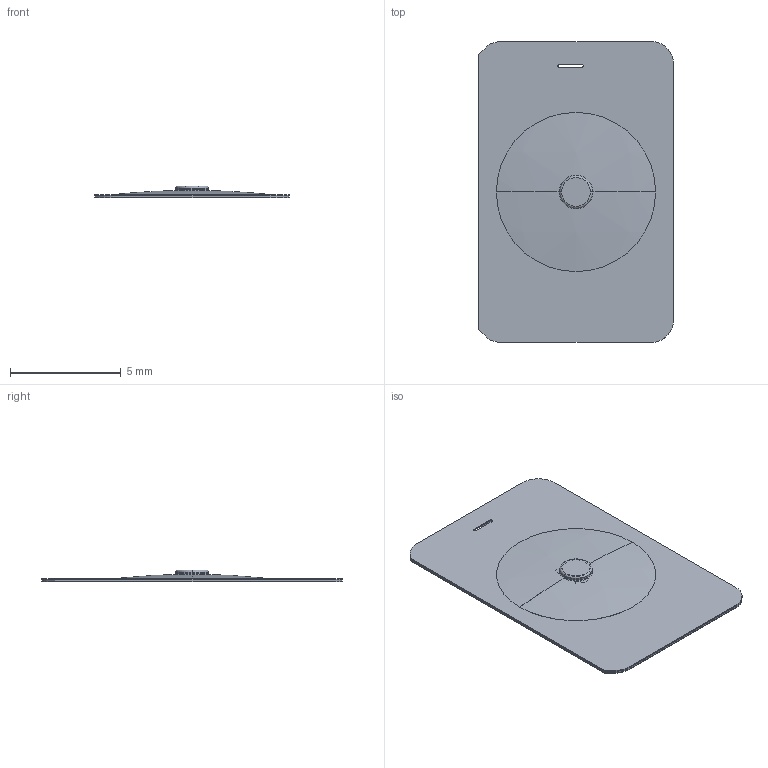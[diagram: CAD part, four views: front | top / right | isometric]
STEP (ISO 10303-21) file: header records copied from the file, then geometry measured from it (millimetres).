
FILE_DESCRIPTION (( 'STEP AP203' ), '1' );
FILE_NAME ('SK5AS00060 130830.STEP', '2013-08-30T09:06:16', ( 'user' ), ( 'Hewlett-Packard Company' ), 'SwSTEP 2.0', 'SolidWorks 2012', '' );
FILE_SCHEMA (( 'CONFIG_CONTROL_DESIGN' ));
Length unit declared in the file: millimetre
Products named in the file (7): SK5AS00060 130830; SHEET1#3; SHEET1-2; SHEET1-1; φ6_1.6N_45%; PJ; SHEET2-1
Assembly tree (6 placements, depth 3):
  SK5AS00060 130830
    SHEET2-1
    PJ
    φ6_1.6N_45%
    SHEET1#3
      SHEET1-1
      SHEET1-2
Bounding box: 8.8 x 13.6 x 0.54 mm (x, y, z)
Volume: 14.6 mm3; surface area: 849 mm2
Topology: 8 solids, 8 shells, 172 faces, 418 edges, 268 vertices
Faces by surface type: cylinder 66, plane 54, torus 28, sphere 24
Entity records: 5881 total; most frequent: DIRECTION 1014, CARTESIAN_POINT 868, ORIENTED_EDGE 836, EDGE_CURVE 418, AXIS2_PLACEMENT_3D 414, VERTEX_POINT 268, CIRCLE 232, EDGE_LOOP 190
